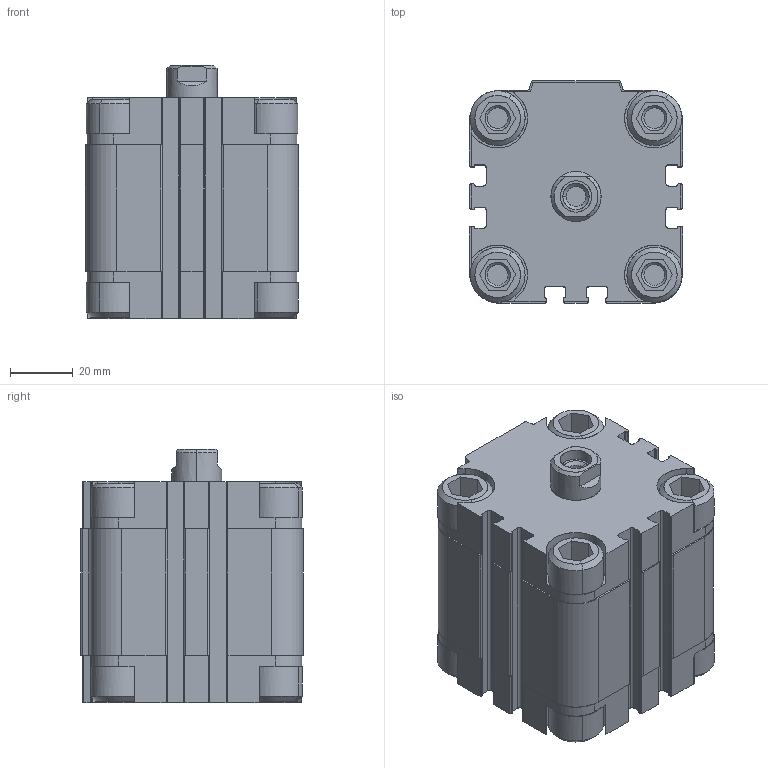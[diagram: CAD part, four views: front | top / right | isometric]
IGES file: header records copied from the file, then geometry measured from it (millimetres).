
Start section: SolidWorks IGES file using analytic representation for surfaces
Global section: file name: K:\Disegni Esecutivi\Cilindri\2_DISEGNI_cilindri_in_produzione\5_Cilindri Compatti\complessivicompatti\QF\QF050\QF050PARTI\QF50PARTI\QF0500025A.igs; native system: SolidWorks 2011; preprocessor: SolidWorks 2011; author: Cad01; date: 110919.164703; units: millimetre
Bounding box: 68 x 71 x 80.8 mm (x, y, z)
Surface area: 43686.9 mm2 (no closed solid volume)
Topology: 0 solids, 0 shells, 559 faces, 6077 edges, 6073 vertices
Faces by surface type: bspline 304, revolution 255
